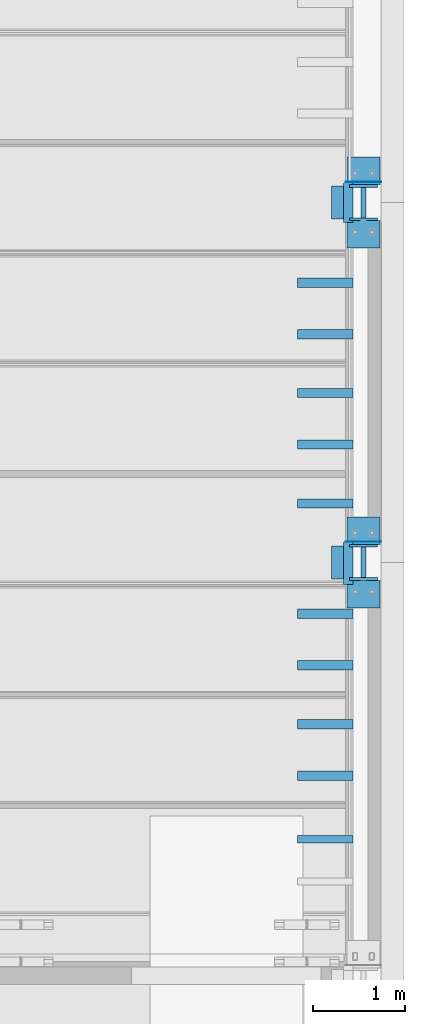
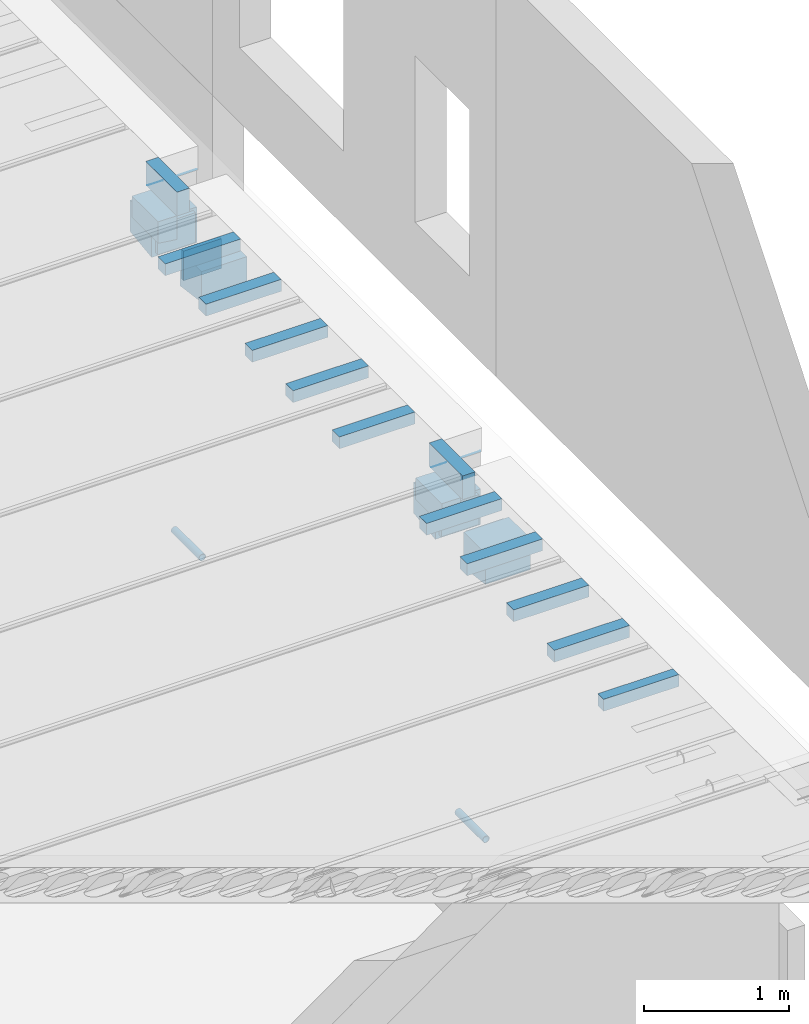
# One storey, part 20 of 230: 28 beams.
"""IFC4X3_ADD2 building model written with IfcOpenShell, lengths in millimetres."""

from ifc_helpers import new_model, entity, si_unit, direction, frame, frame_2d, origin_with_axes, place, context, subcontext, project, spatial, rectangle, hollow_circle, extrude, material, element, save


model = new_model("IFC4X3_ADD2")

# Units and contexts
model_context = context("Model", 3, precision=1e-05, world=origin_with_axes(), true_north=direction((0.0, 1.0)))
body_context = subcontext(model_context, "Body", "Model", "MODEL_VIEW")
ifc_project = project(units=[si_unit("LENGTHUNIT", "METRE", prefix="MILLI"), si_unit("AREAUNIT", "SQUARE_METRE"), si_unit("VOLUMEUNIT", "CUBIC_METRE"), si_unit("PLANEANGLEUNIT", "RADIAN"), si_unit("TIMEUNIT", "SECOND"), si_unit("MASSUNIT", "GRAM")], contexts=[model_context])

# Site, building, storey
site_placement = place(None, origin_with_axes())
site = spatial("IfcSite", under=ifc_project, at=site_placement, Name="Site", CompositionType="ELEMENT")
building_placement = place(site_placement, origin_with_axes())
building = spatial("IfcBuilding", under=site, at=building_placement, Name="IFC Building Story")
storey_placement = place(building_placement, origin_with_axes())
storey = spatial("IfcBuildingStorey", under=building, at=storey_placement, Name="ETAGE 00 (0)", Elevation=0.0)

# Beams
ifc_material_1 = material(Name="STEEL/Accessory_C50/60 64192")
for number, where, z_axis, x_axis, name in (
    (1, (48131.1886362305, 4455.0006109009, 3540.0), (1.0, 0.0, 0.0), (0.0, 0.0, 1.0), "BEK1"),
    (2, (48491.18863623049, 5145.000610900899, 3540.0), (-1.0, 0.0, 0.0), (0.0, 0.0, 1.0), "BEK1"),
):
    element("IfcBeam", number, at=place(storey_placement, frame(where, z_axis=z_axis, x_axis=x_axis)), inside=storey, material=ifc_material_1, Name=name, ObjectType="CORBEL300-300-260", context=body_context, shape_type="SweptSolid", body=[
        extrude(entity("IfcTrapeziumProfileDef", "AREA", None, entity("IfcAxis2Placement2D", entity("IfcCartesianPoint", [0.0, 5.95523630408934e-12]), entity("IfcDirection", [1.0, 0.0])), 300.0, 260.0, 300.0, 40.0), origin_with_axes(), (0.0, 0.0, 1.0), 359.9999999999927),
    ])
beam_1_placement = place(storey_placement, frame((48041.1886362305, 4980.0006109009, 3875.0), z_axis=(0.0, -1.0, 0.0), x_axis=(0.0, 0.0, 1.0)))
element("IfcBeam", 3, at=beam_1_placement, inside=storey, material=ifc_material_1, Name="BEK1", ObjectType="CORBEL200-150-180", context=body_context, shape_type="SweptSolid", body=[
    extrude(entity("IfcTrapeziumProfileDef", "AREA", None, entity("IfcAxis2Placement2D", entity("IfcCartesianPoint", [0.0, 5.95523630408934e-12]), entity("IfcDirection", [1.0, 0.0])), 200.0, 180.0, 150.0, 19.9999999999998), origin_with_axes(), (0.0, 0.0, 1.0), 360.0),
])
for number, where, z_axis, x_axis, name in (
    (4, (48131.1886362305, 8365.0006109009, 3540.0), (1.0, 0.0, 0.0), (0.0, 0.0, 1.0), "BEK1"),
    (5, (48491.18863623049, 9055.0006109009, 3540.0), (-1.0, 0.0, 0.0), (0.0, 0.0, 1.0), "BEK1"),
):
    element("IfcBeam", number, at=place(storey_placement, frame(where, z_axis=z_axis, x_axis=x_axis)), inside=storey, material=ifc_material_1, Name=name, ObjectType="CORBEL300-300-260", context=body_context, shape_type="SweptSolid", body=[
        extrude(entity("IfcTrapeziumProfileDef", "AREA", None, entity("IfcAxis2Placement2D", entity("IfcCartesianPoint", [0.0, 5.95523630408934e-12]), entity("IfcDirection", [1.0, 0.0])), 300.0, 260.0, 300.0, 40.0), origin_with_axes(), (0.0, 0.0, 1.0), 359.9999999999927),
    ])
beam_2_placement = place(storey_placement, frame((48041.1886362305, 8890.0006109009, 3875.0), z_axis=(0.0, -1.0, 0.0), x_axis=(0.0, 0.0, 1.0)))
element("IfcBeam", 6, at=beam_2_placement, inside=storey, material=ifc_material_1, Name="BEK1", ObjectType="CORBEL200-150-180", context=body_context, shape_type="SweptSolid", body=[
    extrude(entity("IfcTrapeziumProfileDef", "AREA", None, entity("IfcAxis2Placement2D", entity("IfcCartesianPoint", [0.0, 5.95523630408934e-12]), entity("IfcDirection", [1.0, 0.0])), 200.0, 180.0, 150.0, 19.9999999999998), origin_with_axes(), (0.0, 0.0, 1.0), 360.0),
])
ifc_material_2 = material(Name="STEEL/Accessory_invisible")
for number, where, z_axis, x_axis, name in (
    (7, (48196.18900000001, 7840.0, 4150.0), (-1.0, 0.0, 0.0), (0.0, -1.0, 0.0), "ES7"),
    (8, (48196.18900000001, 7280.0, 4150.0), (-1.0, 0.0, 0.0), (0.0, -1.0, 0.0), "ES7"),
    (9, (48196.18900000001, 6640.0, 4150.0), (-1.0, 0.0, 0.0), (0.0, -1.0, 0.0), "ES7"),
    (10, (48196.18900000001, 6080.0, 4150.0), (-1.0, 0.0, 0.0), (0.0, -1.0, 0.0), "ES7"),
):
    element("IfcBeam", number, at=place(storey_placement, frame(where, z_axis=z_axis, x_axis=x_axis)), inside=storey, material=ifc_material_2, Name=name, ObjectType="100*100", context=body_context, shape_type="SweptSolid", body=[
        extrude(rectangle(XDim=100.0, YDim=99.99999999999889, at=frame_2d((0.0, 5.95523630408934e-12), x_axis=(1.0, 0.0))), origin_with_axes(), (0.0, 0.0, 1.0), 600.0),
    ])
beam_3_placement = place(storey_placement, frame((48096.18900000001, 4790.0, 4100.0), z_axis=(1.0, 0.0, 0.0), x_axis=(0.0, 0.0, -1.0)))
element("IfcBeam", 11, at=beam_3_placement, inside=storey, material=ifc_material_2, Name="ES32", ObjectType="200*460", context=body_context, shape_type="SweptSolid", body=[
    extrude(rectangle(XDim=200.000006, YDim=459.999999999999, at=frame_2d((0.0, 5.95523630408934e-12), x_axis=(1.0, 0.0))), origin_with_axes(), (0.0, 0.0, 1.0), 100.0),
])
for number, where, z_axis, x_axis, name in (
    (12, (48196.18900000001, 5440.0, 4150.0), (-1.0, 0.0, 0.0), (0.0, -1.0, 0.0), "ES7"),
    (13, (48196.18900000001, 4240.0, 4150.0), (-1.0, 0.0, 0.0), (0.0, -1.0, 0.0), "ES7"),
    (14, (48196.18900000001, 3680.0, 4150.0), (-1.0, 0.0, 0.0), (0.0, -1.0, 0.0), "ES7"),
    (15, (48196.18900000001, 3040.0, 4150.0), (-1.0, 0.0, 0.0), (0.0, -1.0, 0.0), "ES7"),
    (16, (48196.18900000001, 2480.0, 4150.0), (-1.0, 0.0, 0.0), (0.0, -1.0, 0.0), "ES7"),
):
    element("IfcBeam", number, at=place(storey_placement, frame(where, z_axis=z_axis, x_axis=x_axis)), inside=storey, material=ifc_material_2, Name=name, ObjectType="100*100", context=body_context, shape_type="SweptSolid", body=[
        extrude(rectangle(XDim=100.0, YDim=99.99999999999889, at=frame_2d((0.0, 5.95523630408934e-12), x_axis=(1.0, 0.0))), origin_with_axes(), (0.0, 0.0, 1.0), 600.0),
    ])
beam_4_placement = place(storey_placement, frame((48195.68900000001, 1790.0, 4150.0), z_axis=(-1.0, 0.0, 0.0), x_axis=(0.0, 0.0, -1.0)))
element("IfcBeam", 17, at=beam_4_placement, inside=storey, material=ifc_material_2, Name="ES7", ObjectType="100*80", context=body_context, shape_type="SweptSolid", body=[
    extrude(rectangle(XDim=100.0, YDim=80.0, at=frame_2d((0.0, 5.95523630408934e-12), x_axis=(1.0, 0.0))), origin_with_axes(), (0.0, 0.0, 1.0), 600.0000000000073),
])
beam_5_placement = place(storey_placement, frame((48096.18900000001, 8710.0, 4100.0), z_axis=(1.0, 0.0, 0.0), x_axis=(0.0, 0.0, -1.0)))
element("IfcBeam", 18, at=beam_5_placement, inside=storey, material=ifc_material_2, Name="ES32", ObjectType="200*430", context=body_context, shape_type="SweptSolid", body=[
    extrude(rectangle(XDim=200.0, YDim=430.000000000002, at=frame_2d((0.0, 5.95523630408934e-12), x_axis=(1.0, 0.0))), origin_with_axes(), (0.0, 0.0, 1.0), 100.0),
])
ifc_material_3 = material(Name="STEEL/Accessory_EPS")
for number, where, z_axis, x_axis, name in (
    (19, (48461.1886362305, 4620.0006109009, 3544.99999999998), (-1.0, 0.0, 0.0), (0.0, 0.0, 1.0), "POL4"),
    (20, (48461.1886362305, 4980.0006109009, 3544.99999999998), (-1.0, 0.0, 0.0), (0.0, 0.0, 1.0), "POL4"),
):
    element("IfcBeam", number, at=place(storey_placement, frame(where, z_axis=z_axis, x_axis=x_axis)), inside=storey, material=ifc_material_3, Name=name, ObjectType="30*300", context=body_context, shape_type="SweptSolid", body=[
        extrude(rectangle(XDim=250.0, YDim=30.0000000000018, at=frame_2d((0.0, 5.95523630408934e-12), x_axis=(1.0, 0.0))), origin_with_axes(), (0.0, 0.0, 1.0), 300.0),
    ])
ifc_material_4 = material(Name="STEEL/Accessory_PVC")
beam_6_placement = place(storey_placement, frame((48311.1886362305, 4608.00061095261, 1040.0), z_axis=(0.0, 1.0, 0.0), x_axis=(1.0, 0.0, 0.0)))
element("IfcBeam", 21, at=beam_6_placement, inside=storey, material=ifc_material_4, Name="PS13", ObjectType="O56*3", context=body_context, shape_type="SweptSolid", body=[
    extrude(hollow_circle(Radius=28.0, WallThickness=3.0, at=frame_2d((0.0, 5.95523630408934e-12), x_axis=(1.0, 0.0))), origin_with_axes(), (0.0, 0.0, 1.0), 384.0),
])
for number, where, z_axis, x_axis, name in (
    (22, (48461.1886362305, 8530.0006109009, 3544.99999999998), (-1.0, 0.0, 0.0), (0.0, 0.0, 1.0), "POL4"),
    (23, (48461.1886362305, 8890.0006109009, 3544.99999999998), (-1.0, 0.0, 0.0), (0.0, 0.0, 1.0), "POL4"),
):
    element("IfcBeam", number, at=place(storey_placement, frame(where, z_axis=z_axis, x_axis=x_axis)), inside=storey, material=ifc_material_3, Name=name, ObjectType="30*300", context=body_context, shape_type="SweptSolid", body=[
        extrude(rectangle(XDim=250.0, YDim=30.0000000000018, at=frame_2d((0.0, 5.95523630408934e-12), x_axis=(1.0, 0.0))), origin_with_axes(), (0.0, 0.0, 1.0), 300.0),
    ])
beam_7_placement = place(storey_placement, frame((48311.1886362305, 8518.00061095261, 1040.0), z_axis=(0.0, 1.0, 0.0), x_axis=(1.0, 0.0, 0.0)))
element("IfcBeam", 24, at=beam_7_placement, inside=storey, material=ifc_material_4, Name="PS13", ObjectType="O56*3", context=body_context, shape_type="SweptSolid", body=[
    extrude(hollow_circle(Radius=28.0, WallThickness=3.0, at=frame_2d((0.0, 5.95523630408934e-12), x_axis=(1.0, 0.0))), origin_with_axes(), (0.0, 0.0, 1.0), 384.0),
])
beam_8_placement = place(storey_placement, frame((48235.586, 8935.00061090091, 3984.5), z_axis=(-1.0, 0.0, 0.0), x_axis=(0.0, 1.0, 0.0)))
element("IfcBeam", 25, at=beam_8_placement, inside=storey, material=ifc_material_2, Name="ZW3", ObjectType="1*1 3", context=body_context, shape_type="SweptSolid", body=[
    extrude(rectangle(XDim=0.9999999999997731, YDim=0.9999999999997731, at=frame_2d((0.0, 5.95523630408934e-12), x_axis=(1.0, 0.0))), origin_with_axes(), (0.0, 0.0, 1.0), 119.9000000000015),
])
beam_9_placement = place(storey_placement, frame((48505.686, 8935.00061090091, 3984.5), z_axis=(-1.0, 0.0, 0.0), x_axis=(0.0, 1.0, 0.0)))
element("IfcBeam", 26, at=beam_9_placement, inside=storey, material=ifc_material_2, Name="ZW3", ObjectType="1*1 3", context=body_context, shape_type="SweptSolid", body=[
    extrude(rectangle(XDim=0.9999999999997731, YDim=0.9999999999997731, at=frame_2d((0.0, 5.95523630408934e-12), x_axis=(1.0, 0.0))), origin_with_axes(), (0.0, 0.0, 1.0), 270.0000000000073),
])
beam_10_placement = place(storey_placement, frame((48235.586, 5025.00061090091, 3984.5), z_axis=(-1.0, 0.0, 0.0), x_axis=(0.0, 1.0, 0.0)))
element("IfcBeam", 27, at=beam_10_placement, inside=storey, material=ifc_material_2, Name="ZW3", ObjectType="1*1 3", context=body_context, shape_type="SweptSolid", body=[
    extrude(rectangle(XDim=0.9999999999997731, YDim=0.9999999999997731, at=frame_2d((0.0, 5.95523630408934e-12), x_axis=(1.0, 0.0))), origin_with_axes(), (0.0, 0.0, 1.0), 119.9000000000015),
])
beam_11_placement = place(storey_placement, frame((48505.686, 5025.00061090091, 3984.5), z_axis=(-1.0, 0.0, 0.0), x_axis=(0.0, 1.0, 0.0)))
element("IfcBeam", 28, at=beam_11_placement, inside=storey, material=ifc_material_2, Name="ZW3", ObjectType="1*1 3", context=body_context, shape_type="SweptSolid", body=[
    extrude(rectangle(XDim=0.9999999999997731, YDim=0.9999999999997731, at=frame_2d((0.0, 5.95523630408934e-12), x_axis=(1.0, 0.0))), origin_with_axes(), (0.0, 0.0, 1.0), 270.0000000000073),
])

save(model, "model.ifc")
